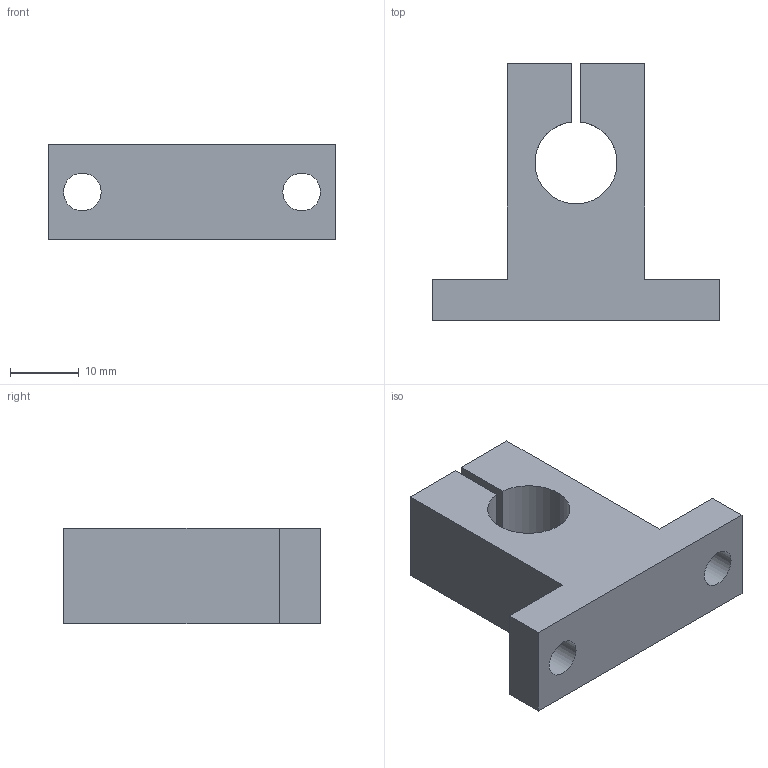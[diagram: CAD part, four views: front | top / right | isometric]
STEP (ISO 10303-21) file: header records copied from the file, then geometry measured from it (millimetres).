
FILE_DESCRIPTION( ( 'STEP AP203' ), '1' );
FILE_NAME( 'p:/temp/worker_3/temp/exporttempdir_3268_668_SwFls/format_0/SK12.stp', '2020-05-08T01:31:55', ( 'License CC BY-ND 4.0' ), ( 'CADENAS' ), ' ', 'PARTsolutions', ' ' );
FILE_SCHEMA( ( 'CONFIG_CONTROL_DESIGN' ) );
Length unit declared in the file: millimetre
Products named in the file (1): _SK12
Bounding box: 42 x 37.5 x 14 mm (x, y, z)
Volume: 10336.6 mm3; surface area: 4588.7 mm2
Topology: 1 solids, 1 shells, 16 faces, 42 edges, 28 vertices
Faces by surface type: plane 13, cylinder 3
Full cylindrical faces by diameter (mm): 5.5 x2
Entity records: 534 total; most frequent: CARTESIAN_POINT 85, DIRECTION 80, ORIENTED_EDGE 80, EDGE_CURVE 40, LINE 34, VECTOR 34, VERTEX_POINT 28, AXIS2_PLACEMENT_3D 23
